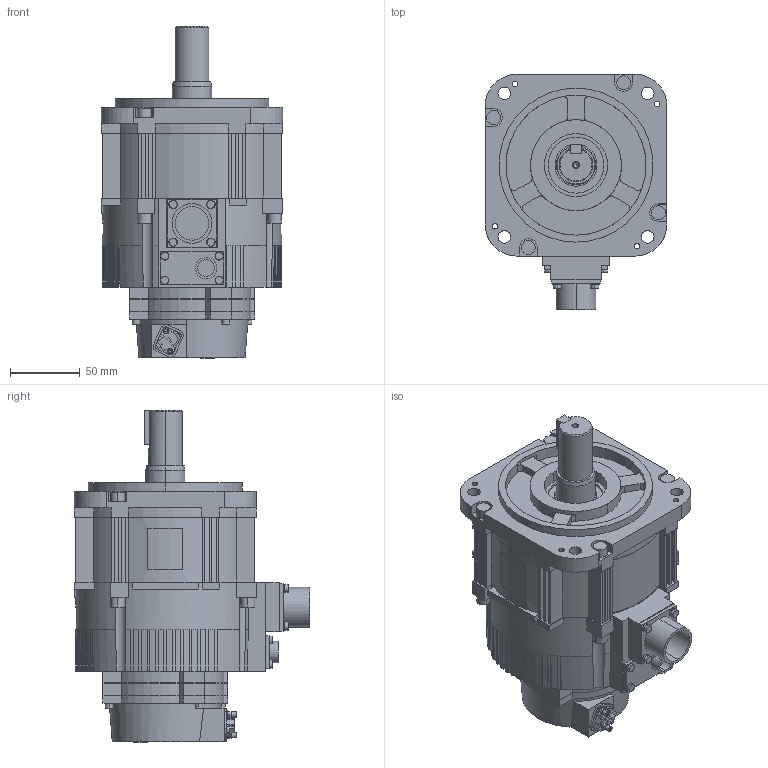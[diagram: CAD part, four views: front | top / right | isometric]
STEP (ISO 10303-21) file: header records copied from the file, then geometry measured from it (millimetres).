
FILE_DESCRIPTION( (''), '2;1');
FILE_NAME ('sgmxg_09awa6ca1.stp','2024-03-08T10:58:18',(''),(''),'spGate 15.6.6','','');
FILE_SCHEMA (('AUTOMOTIVE_DESIGN'));
Length unit declared in the file: millimetre
Products named in the file (3): Assembly; sgmxg_09awa6ca1-prt0; sgmxg_09awa6ca1-prt1
Assembly tree (2 placements, depth 2):
  Assembly
    sgmxg_09awa6ca1-prt0
    sgmxg_09awa6ca1-prt1
Bounding box: 130 x 168.2 x 237.2 mm (x, y, z)
Volume: 2099328.6 mm3; surface area: 147423.9 mm2
Topology: 2 solids, 2 shells, 763 faces, 2070 edges, 1372 vertices
Faces by surface type: plane 508, cylinder 208, bspline 47
Entity records: 40550 total; most frequent: CARTESIAN_POINT 4917, ORIENTED_EDGE 4136, DIRECTION 3904, COLOUR_RGB 2833, PRESENTATION_STYLE_ASSIGNMENT 2833, STYLED_ITEM 2833, EDGE_CURVE 2068, DRAUGHTING_PRE_DEFINED_CURVE_FONT 2068
